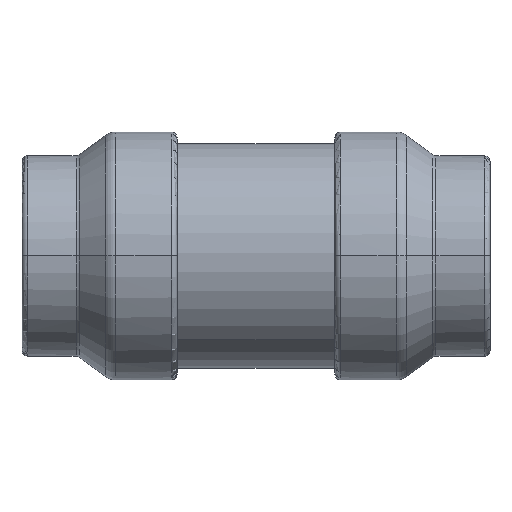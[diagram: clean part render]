
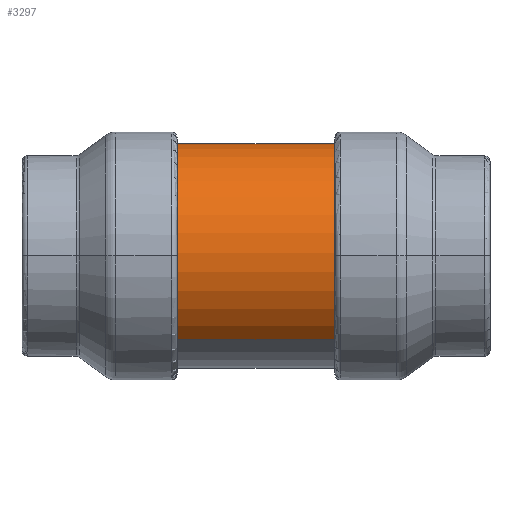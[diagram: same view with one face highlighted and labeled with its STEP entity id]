
A CAD part, top view. The second image highlights one B-rep face of the part: STEP entity #3297.
In plain terms, the highlighted cylindrical face has radius 80 mm (diameter 160 mm), a partial arc.
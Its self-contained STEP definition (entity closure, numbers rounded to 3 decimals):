
#1417 = ORIENTED_EDGE ( 'NONE', *, *, #3374, .F. ) ;
#1418 = ORIENTED_EDGE ( 'NONE', *, *, #3375, .T. ) ;
#1419 = ORIENTED_EDGE ( 'NONE', *, *, #3376, .T. ) ;
#1420 = ORIENTED_EDGE ( 'NONE', *, *, #3385, .F. ) ;
#1614 = VERTEX_POINT ( 'NONE', #9576 ) ;
#1617 = VERTEX_POINT ( 'NONE', #9579 ) ;
#1618 = VERTEX_POINT ( 'NONE', #9580 ) ;
#1926 = VERTEX_POINT ( 'NONE', #5052 ) ;
#2359 = AXIS2_PLACEMENT_3D ( 'NONE', #6968, #6964, #6970 ) ;
#2480 = VECTOR ( 'NONE', #7509, 1000. ) ;
#2482 = VECTOR ( 'NONE', #7515, 1000. ) ;
#2484 = CIRCLE ( 'NONE', #2486, 80. ) ;
#2486 = AXIS2_PLACEMENT_3D ( 'NONE', #7512, #7513, #7514 ) ;
#2488 = CIRCLE ( 'NONE', #2500, 80. ) ;
#2500 = AXIS2_PLACEMENT_3D ( 'NONE', #7541, #7542, #7543 ) ;
#3297 = ADVANCED_FACE ( 'NONE', ( #6967 ), #6969, .T. ) ;
#3374 = EDGE_CURVE ( 'NONE', #1614, #1618, #7505, .T. ) ;
#3375 = EDGE_CURVE ( 'NONE', #1617, #1618, #2484, .T. ) ;
#3376 = EDGE_CURVE ( 'NONE', #1926, #1617, #7511, .T. ) ;
#3385 = EDGE_CURVE ( 'NONE', #1926, #1614, #2488, .T. ) ;
#5052 = CARTESIAN_POINT ( 'NONE',  ( 229.506, 59.871, -53.06 ) ) ;
#6964 = DIRECTION ( 'NONE',  ( -1., 0., 0. ) ) ;
#6967 = FACE_OUTER_BOUND ( 'NONE', #11941, .T. ) ;
#6968 = CARTESIAN_POINT ( 'NONE',  ( 229.506, 0., 0. ) ) ;
#6969 = CYLINDRICAL_SURFACE ( 'NONE', #2359, 80. ) ;
#6970 = DIRECTION ( 'NONE',  ( 0., -0.748, 0.663 ) ) ;
#7491 = CARTESIAN_POINT ( 'NONE',  ( 229.506, 59.871, -53.06 ) ) ;
#7495 = CARTESIAN_POINT ( 'NONE',  ( 229.506, -59.871, 53.06 ) ) ;
#7505 = LINE ( 'NONE', #7495, #2480 ) ;
#7509 = DIRECTION ( 'NONE',  ( -1., 0., 0. ) ) ;
#7511 = LINE ( 'NONE', #7491, #2482 ) ;
#7512 = CARTESIAN_POINT ( 'NONE',  ( 29.506, 0., 0. ) ) ;
#7513 = DIRECTION ( 'NONE',  ( 1., 0., 0. ) ) ;
#7514 = DIRECTION ( 'NONE',  ( 0., 0.748, -0.663 ) ) ;
#7515 = DIRECTION ( 'NONE',  ( -1., 0., 0. ) ) ;
#7541 = CARTESIAN_POINT ( 'NONE',  ( 229.506, 0., 0. ) ) ;
#7542 = DIRECTION ( 'NONE',  ( 1., 0., 0. ) ) ;
#7543 = DIRECTION ( 'NONE',  ( 0., 0.748, -0.663 ) ) ;
#9576 = CARTESIAN_POINT ( 'NONE',  ( 229.506, -59.871, 53.06 ) ) ;
#9579 = CARTESIAN_POINT ( 'NONE',  ( 29.506, 59.871, -53.06 ) ) ;
#9580 = CARTESIAN_POINT ( 'NONE',  ( 29.506, -59.871, 53.06 ) ) ;
#11941 = EDGE_LOOP ( 'NONE', ( #1420, #1419, #1418, #1417 ) ) ;
